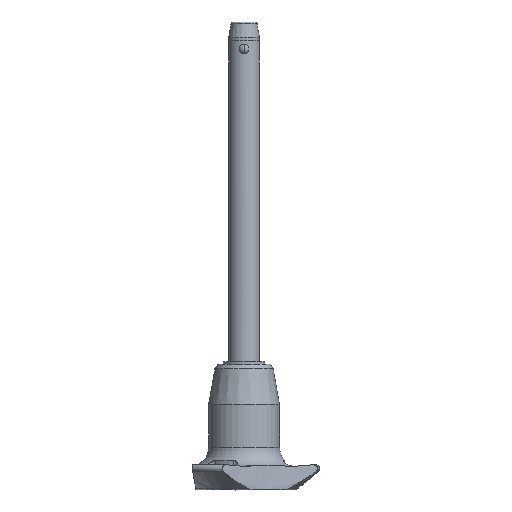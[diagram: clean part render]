
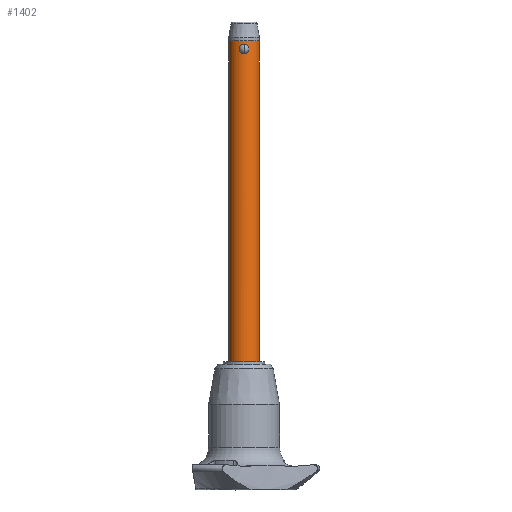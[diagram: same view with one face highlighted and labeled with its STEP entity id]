
A CAD part, front view. The second image highlights one B-rep face of the part: STEP entity #1402.
In plain terms, the highlighted cylindrical face has radius 4 mm (diameter 8 mm), a partial arc.
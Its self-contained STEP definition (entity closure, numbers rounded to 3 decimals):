
#8 = CARTESIAN_POINT ( 'NONE',  ( 0.627, -3.953, 0.143 ) ) ;
#13 = CARTESIAN_POINT ( 'NONE',  ( -1.266, -3.794, 1.12 ) ) ;
#59 = CARTESIAN_POINT ( 'NONE',  ( -0.628, -3.953, 0.143 ) ) ;
#91 = CARTESIAN_POINT ( 'NONE',  ( 0., 0., -80. ) ) ;
#102 = VERTEX_POINT ( 'NONE', #975 ) ;
#126 = EDGE_LOOP ( 'NONE', ( #400, #1336 ) ) ;
#155 = CIRCLE ( 'NONE', #823, 4. ) ;
#189 = ORIENTED_EDGE ( 'NONE', *, *, #726, .F. ) ;
#246 = CARTESIAN_POINT ( 'NONE',  ( -1.231, -3.806, 1.527 ) ) ;
#259 = CARTESIAN_POINT ( 'NONE',  ( 1.005, -3.874, 1.953 ) ) ;
#261 = AXIS2_PLACEMENT_3D ( 'NONE', #2812, #1348, #1108 ) ;
#263 = CARTESIAN_POINT ( 'NONE',  ( -1.101, -3.846, 0.579 ) ) ;
#283 = CARTESIAN_POINT ( 'NONE',  ( -4., 0., -80. ) ) ;
#360 = DIRECTION ( 'NONE',  ( 1., 0., 0. ) ) ;
#370 = EDGE_LOOP ( 'NONE', ( #2700, #386, #1878, #189 ) ) ;
#386 = ORIENTED_EDGE ( 'NONE', *, *, #2219, .F. ) ;
#400 = ORIENTED_EDGE ( 'NONE', *, *, #2676, .F. ) ;
#424 = CARTESIAN_POINT ( 'NONE',  ( 0.629, -3.953, 2.256 ) ) ;
#438 = CARTESIAN_POINT ( 'NONE',  ( 0.999, -3.874, 0.452 ) ) ;
#453 = CARTESIAN_POINT ( 'NONE',  ( -0.164, -4., 2.4 ) ) ;
#463 = CARTESIAN_POINT ( 'NONE',  ( 1.258, -3.797, 1.361 ) ) ;
#468 = CARTESIAN_POINT ( 'NONE',  ( -1.258, -3.797, 1.038 ) ) ;
#480 = CARTESIAN_POINT ( 'NONE',  ( 0.326, -3.99, 0.029 ) ) ;
#497 = CARTESIAN_POINT ( 'NONE',  ( -0.326, -3.99, 0.029 ) ) ;
#549 = B_SPLINE_CURVE_WITH_KNOTS ( 'NONE', 3,
 ( #2422, #1550, #480, #8, #1755, #1986, #438, #878, #2232, #1124, #2383, #1519, #463, #1330, #2436, #2214, #259, #1958, #424, #2395, #2005, #862 ),
 .UNSPECIFIED., .F., .F.,
 ( 4, 2, 2, 2, 2, 2, 2, 2, 2, 2, 4 ),
 ( 0.004, 0.004, 0.005, 0.005, 0.005, 0.006, 0.006, 0.006, 0.007, 0.007, 0.008 ),
 .UNSPECIFIED. ) ;
#617 = VECTOR ( 'NONE', #1225, 1000. ) ;
#653 = CARTESIAN_POINT ( 'NONE',  ( -1.133, -3.836, 1.747 ) ) ;
#673 = CARTESIAN_POINT ( 'NONE',  ( -0.325, -3.99, 2.371 ) ) ;
#684 = VERTEX_POINT ( 'NONE', #1660 ) ;
#726 = EDGE_CURVE ( 'NONE', #2795, #2523, #155, .T. ) ;
#741 = CARTESIAN_POINT ( 'NONE',  ( 0., -4., 0. ) ) ;
#823 = AXIS2_PLACEMENT_3D ( 'NONE', #2305, #986, #360 ) ;
#862 = CARTESIAN_POINT ( 'NONE',  ( 0., -4., 2.4 ) ) ;
#878 = CARTESIAN_POINT ( 'NONE',  ( 1.092, -3.848, 0.582 ) ) ;
#922 = CARTESIAN_POINT ( 'NONE',  ( 0., -4., 2.4 ) ) ;
#935 = VECTOR ( 'NONE', #1363, 1000. ) ;
#975 = CARTESIAN_POINT ( 'NONE',  ( -4., 0., -80. ) ) ;
#986 = DIRECTION ( 'NONE',  ( 0., 0., 1. ) ) ;
#1002 = DIRECTION ( 'NONE',  ( 1., 0., 0. ) ) ;
#1108 = DIRECTION ( 'NONE',  ( 1., 0., 0. ) ) ;
#1119 = B_SPLINE_CURVE_WITH_KNOTS ( 'NONE', 3,
 ( #922, #453, #673, #1540, #1742, #1350, #1306, #2678, #1319, #2203, #653, #246, #2425, #13, #468, #1333, #2217, #263, #2456, #1127, #59, #497, #2175, #2616 ),
 .UNSPECIFIED., .F., .F.,
 ( 4, 2, 2, 2, 2, 2, 2, 2, 2, 2, 2, 4 ),
 ( 0., 0., 0.001, 0.001, 0.001, 0.001, 0.002, 0.002, 0.002, 0.003, 0.003, 0.004 ),
 .UNSPECIFIED. ) ;
#1124 = CARTESIAN_POINT ( 'NONE',  ( 1.231, -3.806, 0.873 ) ) ;
#1127 = CARTESIAN_POINT ( 'NONE',  ( -0.768, -3.927, 0.228 ) ) ;
#1182 = FACE_BOUND ( 'NONE', #126, .T. ) ;
#1196 = VERTEX_POINT ( 'NONE', #1985 ) ;
#1225 = DIRECTION ( 'NONE',  ( 0., 0., 1. ) ) ;
#1306 = CARTESIAN_POINT ( 'NONE',  ( -0.827, -3.914, 2.117 ) ) ;
#1319 = CARTESIAN_POINT ( 'NONE',  ( -0.998, -3.874, 1.949 ) ) ;
#1330 = CARTESIAN_POINT ( 'NONE',  ( 1.224, -3.808, 1.52 ) ) ;
#1333 = CARTESIAN_POINT ( 'NONE',  ( -1.224, -3.808, 0.879 ) ) ;
#1336 = ORIENTED_EDGE ( 'NONE', *, *, #2243, .F. ) ;
#1348 = DIRECTION ( 'NONE',  ( 0., 0., -1. ) ) ;
#1350 = CARTESIAN_POINT ( 'NONE',  ( -0.762, -3.927, 2.166 ) ) ;
#1359 = LINE ( 'NONE', #283, #617 ) ;
#1363 = DIRECTION ( 'NONE',  ( 0., 0., 1. ) ) ;
#1402 = ADVANCED_FACE ( 'NONE', ( #2488, #1182 ), #2092, .T. ) ;
#1479 = CIRCLE ( 'NONE', #261, 4. ) ;
#1502 = VERTEX_POINT ( 'NONE', #741 ) ;
#1519 = CARTESIAN_POINT ( 'NONE',  ( 1.266, -3.794, 1.281 ) ) ;
#1540 = CARTESIAN_POINT ( 'NONE',  ( -0.553, -3.962, 2.285 ) ) ;
#1550 = CARTESIAN_POINT ( 'NONE',  ( 0.162, -4., 0. ) ) ;
#1660 = CARTESIAN_POINT ( 'NONE',  ( 0., -4., 2.4 ) ) ;
#1742 = CARTESIAN_POINT ( 'NONE',  ( -0.625, -3.951, 2.25 ) ) ;
#1745 = EDGE_CURVE ( 'NONE', #1196, #2523, #2089, .T. ) ;
#1748 = CARTESIAN_POINT ( 'NONE',  ( 4., 0., 3.28 ) ) ;
#1750 = AXIS2_PLACEMENT_3D ( 'NONE', #91, #2723, #1002 ) ;
#1755 = CARTESIAN_POINT ( 'NONE',  ( 0.768, -3.927, 0.228 ) ) ;
#1847 = CARTESIAN_POINT ( 'NONE',  ( 4., 0., -80. ) ) ;
#1878 = ORIENTED_EDGE ( 'NONE', *, *, #1745, .T. ) ;
#1958 = CARTESIAN_POINT ( 'NONE',  ( 0.769, -3.927, 2.171 ) ) ;
#1985 = CARTESIAN_POINT ( 'NONE',  ( 4., 0., -80. ) ) ;
#1986 = CARTESIAN_POINT ( 'NONE',  ( 0.944, -3.887, 0.391 ) ) ;
#2005 = CARTESIAN_POINT ( 'NONE',  ( 0.164, -4., 2.4 ) ) ;
#2089 = LINE ( 'NONE', #1847, #935 ) ;
#2092 = CYLINDRICAL_SURFACE ( 'NONE', #1750, 4. ) ;
#2175 = CARTESIAN_POINT ( 'NONE',  ( -0.162, -4., 0. ) ) ;
#2203 = CARTESIAN_POINT ( 'NONE',  ( -1.092, -3.848, 1.818 ) ) ;
#2214 = CARTESIAN_POINT ( 'NONE',  ( 1.101, -3.846, 1.82 ) ) ;
#2217 = CARTESIAN_POINT ( 'NONE',  ( -1.199, -3.816, 0.802 ) ) ;
#2219 = EDGE_CURVE ( 'NONE', #1196, #102, #1479, .T. ) ;
#2232 = CARTESIAN_POINT ( 'NONE',  ( 1.132, -3.836, 0.651 ) ) ;
#2243 = EDGE_CURVE ( 'NONE', #1502, #684, #549, .T. ) ;
#2305 = CARTESIAN_POINT ( 'NONE',  ( 0., 0., 3.28 ) ) ;
#2383 = CARTESIAN_POINT ( 'NONE',  ( 1.266, -3.794, 1.035 ) ) ;
#2395 = CARTESIAN_POINT ( 'NONE',  ( 0.326, -3.99, 2.371 ) ) ;
#2422 = CARTESIAN_POINT ( 'NONE',  ( 0., -4., 0. ) ) ;
#2425 = CARTESIAN_POINT ( 'NONE',  ( -1.266, -3.794, 1.364 ) ) ;
#2436 = CARTESIAN_POINT ( 'NONE',  ( 1.199, -3.816, 1.599 ) ) ;
#2449 = EDGE_CURVE ( 'NONE', #102, #2795, #1359, .T. ) ;
#2456 = CARTESIAN_POINT ( 'NONE',  ( -1.005, -3.874, 0.447 ) ) ;
#2488 = FACE_OUTER_BOUND ( 'NONE', #370, .T. ) ;
#2523 = VERTEX_POINT ( 'NONE', #1748 ) ;
#2616 = CARTESIAN_POINT ( 'NONE',  ( 0., -4., 0. ) ) ;
#2676 = EDGE_CURVE ( 'NONE', #684, #1502, #1119, .T. ) ;
#2678 = CARTESIAN_POINT ( 'NONE',  ( -0.945, -3.887, 2.008 ) ) ;
#2700 = ORIENTED_EDGE ( 'NONE', *, *, #2449, .F. ) ;
#2723 = DIRECTION ( 'NONE',  ( 0., 0., 1. ) ) ;
#2753 = CARTESIAN_POINT ( 'NONE',  ( -4., 0., 3.28 ) ) ;
#2795 = VERTEX_POINT ( 'NONE', #2753 ) ;
#2812 = CARTESIAN_POINT ( 'NONE',  ( 0., 0., -80. ) ) ;
